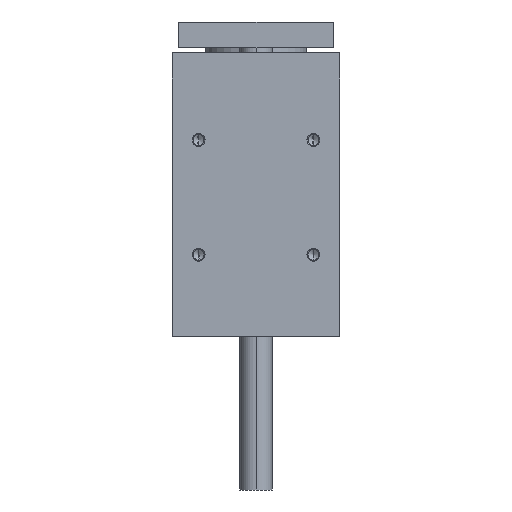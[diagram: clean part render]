
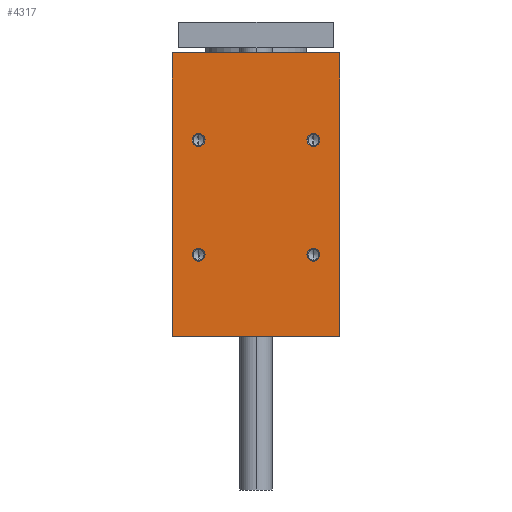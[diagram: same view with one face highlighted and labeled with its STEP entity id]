
A CAD part, left-side view. The second image highlights one B-rep face of the part: STEP entity #4317.
In plain terms, the highlighted planar face has unit normal (-1, 0, 0).
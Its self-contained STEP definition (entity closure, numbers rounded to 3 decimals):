
#60 = DIRECTION ( 'NONE',  ( 1., 0., 0. ) ) ;
#141 = CARTESIAN_POINT ( 'NONE',  ( -106.5, 44.5, 19.5 ) ) ;
#167 = FACE_OUTER_BOUND ( 'NONE', #5494, .T. ) ;
#168 = VERTEX_POINT ( 'NONE', #4506 ) ;
#173 = EDGE_CURVE ( 'NONE', #866, #2658, #3037, .T. ) ;
#185 = CARTESIAN_POINT ( 'NONE',  ( -106.5, -44.5, -64.5 ) ) ;
#186 = CARTESIAN_POINT ( 'NONE',  ( -106.5, 65., -128. ) ) ;
#221 = ORIENTED_EDGE ( 'NONE', *, *, #9203, .T. ) ;
#266 = DIRECTION ( 'NONE',  ( 0., 0., 1. ) ) ;
#301 = VERTEX_POINT ( 'NONE', #453 ) ;
#311 = ORIENTED_EDGE ( 'NONE', *, *, #8060, .T. ) ;
#336 = EDGE_LOOP ( 'NONE', ( #221, #1526 ) ) ;
#453 = CARTESIAN_POINT ( 'NONE',  ( -106.5, -44.5, -59.5 ) ) ;
#618 = VERTEX_POINT ( 'NONE', #1654 ) ;
#775 = VECTOR ( 'NONE', #4558, 1000. ) ;
#845 = EDGE_LOOP ( 'NONE', ( #3641, #8409 ) ) ;
#866 = VERTEX_POINT ( 'NONE', #141 ) ;
#897 = ORIENTED_EDGE ( 'NONE', *, *, #5985, .T. ) ;
#908 = CARTESIAN_POINT ( 'NONE',  ( -106.5, 44.5, 24.5 ) ) ;
#997 = CARTESIAN_POINT ( 'NONE',  ( -106.5, -65., -128. ) ) ;
#1097 = CARTESIAN_POINT ( 'NONE',  ( -106.5, 65., -128. ) ) ;
#1168 = CARTESIAN_POINT ( 'NONE',  ( -106.5, 44.5, -64.5 ) ) ;
#1226 = VECTOR ( 'NONE', #4097, 1000. ) ;
#1279 = ORIENTED_EDGE ( 'NONE', *, *, #1417, .T. ) ;
#1302 = EDGE_CURVE ( 'NONE', #8812, #9419, #4547, .T. ) ;
#1325 = VECTOR ( 'NONE', #4008, 1000. ) ;
#1417 = EDGE_CURVE ( 'NONE', #168, #9419, #1730, .T. ) ;
#1463 = FACE_BOUND ( 'NONE', #5907, .T. ) ;
#1526 = ORIENTED_EDGE ( 'NONE', *, *, #173, .T. ) ;
#1598 = VERTEX_POINT ( 'NONE', #4198 ) ;
#1654 = CARTESIAN_POINT ( 'NONE',  ( -106.5, 65., -128. ) ) ;
#1655 = VECTOR ( 'NONE', #266, 1000. ) ;
#1730 = LINE ( 'NONE', #997, #1655 ) ;
#1872 = CIRCLE ( 'NONE', #8861, 5. ) ;
#2242 = CARTESIAN_POINT ( 'NONE',  ( -106.5, -44.5, -69.5 ) ) ;
#2243 = DIRECTION ( 'NONE',  ( 1., 0., 0. ) ) ;
#2619 = DIRECTION ( 'NONE',  ( 0., 0., -1. ) ) ;
#2658 = VERTEX_POINT ( 'NONE', #5930 ) ;
#2710 = EDGE_CURVE ( 'NONE', #5092, #4435, #8848, .T. ) ;
#2888 = DIRECTION ( 'NONE',  ( 0., 0., -1. ) ) ;
#3037 = CIRCLE ( 'NONE', #8951, 5. ) ;
#3059 = DIRECTION ( 'NONE',  ( 1., 0., 0. ) ) ;
#3095 = ORIENTED_EDGE ( 'NONE', *, *, #7438, .F. ) ;
#3214 = CARTESIAN_POINT ( 'NONE',  ( -106.5, 44.5, -69.5 ) ) ;
#3227 = AXIS2_PLACEMENT_3D ( 'NONE', #3753, #60, #8238 ) ;
#3230 = CIRCLE ( 'NONE', #4002, 5. ) ;
#3305 = ORIENTED_EDGE ( 'NONE', *, *, #6308, .T. ) ;
#3324 = CARTESIAN_POINT ( 'NONE',  ( -106.5, -44.5, 19.5 ) ) ;
#3381 = CIRCLE ( 'NONE', #8522, 5. ) ;
#3529 = AXIS2_PLACEMENT_3D ( 'NONE', #7186, #6454, #9428 ) ;
#3629 = CARTESIAN_POINT ( 'NONE',  ( -106.5, 44.5, 24.5 ) ) ;
#3641 = ORIENTED_EDGE ( 'NONE', *, *, #2710, .T. ) ;
#3699 = CARTESIAN_POINT ( 'NONE',  ( -106.5, 65., 92. ) ) ;
#3753 = CARTESIAN_POINT ( 'NONE',  ( -106.5, 65., -128. ) ) ;
#4002 = AXIS2_PLACEMENT_3D ( 'NONE', #8558, #8641, #2619 ) ;
#4008 = DIRECTION ( 'NONE',  ( 0., -1., 0. ) ) ;
#4097 = DIRECTION ( 'NONE',  ( 0., -1., 0. ) ) ;
#4132 = DIRECTION ( 'NONE',  ( 1., 0., 0. ) ) ;
#4175 = CIRCLE ( 'NONE', #6352, 5. ) ;
#4198 = CARTESIAN_POINT ( 'NONE',  ( -106.5, -44.5, 29.5 ) ) ;
#4313 = EDGE_CURVE ( 'NONE', #1598, #5175, #7878, .T. ) ;
#4317 = ADVANCED_FACE ( 'NONE', ( #167, #1463, #6099, #6621, #4537 ), #8182, .F. ) ;
#4435 = VERTEX_POINT ( 'NONE', #3214 ) ;
#4456 = DIRECTION ( 'NONE',  ( 0., 0., -1. ) ) ;
#4506 = CARTESIAN_POINT ( 'NONE',  ( -106.5, -65., -128. ) ) ;
#4533 = ORIENTED_EDGE ( 'NONE', *, *, #8150, .T. ) ;
#4537 = FACE_BOUND ( 'NONE', #336, .T. ) ;
#4547 = LINE ( 'NONE', #7511, #1325 ) ;
#4558 = DIRECTION ( 'NONE',  ( 0., 0., 1. ) ) ;
#4698 = DIRECTION ( 'NONE',  ( 1., 0., 0. ) ) ;
#5092 = VERTEX_POINT ( 'NONE', #9082 ) ;
#5175 = VERTEX_POINT ( 'NONE', #3324 ) ;
#5374 = DIRECTION ( 'NONE',  ( 1., 0., 0. ) ) ;
#5494 = EDGE_LOOP ( 'NONE', ( #1279, #7246, #3095, #311 ) ) ;
#5713 = CIRCLE ( 'NONE', #3529, 5. ) ;
#5907 = EDGE_LOOP ( 'NONE', ( #4533, #897 ) ) ;
#5930 = CARTESIAN_POINT ( 'NONE',  ( -106.5, 44.5, 29.5 ) ) ;
#5934 = EDGE_CURVE ( 'NONE', #4435, #5092, #3230, .T. ) ;
#5985 = EDGE_CURVE ( 'NONE', #8864, #301, #5713, .T. ) ;
#6099 = FACE_BOUND ( 'NONE', #845, .T. ) ;
#6284 = ORIENTED_EDGE ( 'NONE', *, *, #4313, .T. ) ;
#6308 = EDGE_CURVE ( 'NONE', #5175, #1598, #3381, .T. ) ;
#6336 = AXIS2_PLACEMENT_3D ( 'NONE', #8912, #2243, #6832 ) ;
#6352 = AXIS2_PLACEMENT_3D ( 'NONE', #185, #5374, #4456 ) ;
#6454 = DIRECTION ( 'NONE',  ( 1., 0., 0. ) ) ;
#6593 = DIRECTION ( 'NONE',  ( 1., 0., 0. ) ) ;
#6621 = FACE_BOUND ( 'NONE', #9194, .T. ) ;
#6832 = DIRECTION ( 'NONE',  ( 0., 0., -1. ) ) ;
#6896 = CARTESIAN_POINT ( 'NONE',  ( -106.5, -44.5, 24.5 ) ) ;
#6939 = LINE ( 'NONE', #186, #775 ) ;
#7186 = CARTESIAN_POINT ( 'NONE',  ( -106.5, -44.5, -64.5 ) ) ;
#7246 = ORIENTED_EDGE ( 'NONE', *, *, #1302, .F. ) ;
#7438 = EDGE_CURVE ( 'NONE', #618, #8812, #6939, .T. ) ;
#7511 = CARTESIAN_POINT ( 'NONE',  ( -106.5, 65., 92. ) ) ;
#7669 = DIRECTION ( 'NONE',  ( 0., 0., -1. ) ) ;
#7760 = LINE ( 'NONE', #1097, #1226 ) ;
#7878 = CIRCLE ( 'NONE', #6336, 5. ) ;
#7921 = AXIS2_PLACEMENT_3D ( 'NONE', #1168, #4132, #8993 ) ;
#8060 = EDGE_CURVE ( 'NONE', #618, #168, #7760, .T. ) ;
#8150 = EDGE_CURVE ( 'NONE', #301, #8864, #4175, .T. ) ;
#8182 = PLANE ( 'NONE',  #3227 ) ;
#8238 = DIRECTION ( 'NONE',  ( 0., 1., 0. ) ) ;
#8409 = ORIENTED_EDGE ( 'NONE', *, *, #5934, .T. ) ;
#8522 = AXIS2_PLACEMENT_3D ( 'NONE', #6896, #4698, #7669 ) ;
#8558 = CARTESIAN_POINT ( 'NONE',  ( -106.5, 44.5, -64.5 ) ) ;
#8641 = DIRECTION ( 'NONE',  ( 1., 0., 0. ) ) ;
#8812 = VERTEX_POINT ( 'NONE', #3699 ) ;
#8848 = CIRCLE ( 'NONE', #7921, 5. ) ;
#8861 = AXIS2_PLACEMENT_3D ( 'NONE', #3629, #3059, #9536 ) ;
#8864 = VERTEX_POINT ( 'NONE', #2242 ) ;
#8912 = CARTESIAN_POINT ( 'NONE',  ( -106.5, -44.5, 24.5 ) ) ;
#8951 = AXIS2_PLACEMENT_3D ( 'NONE', #908, #6593, #2888 ) ;
#8993 = DIRECTION ( 'NONE',  ( 0., 0., -1. ) ) ;
#9082 = CARTESIAN_POINT ( 'NONE',  ( -106.5, 44.5, -59.5 ) ) ;
#9194 = EDGE_LOOP ( 'NONE', ( #6284, #3305 ) ) ;
#9203 = EDGE_CURVE ( 'NONE', #2658, #866, #1872, .T. ) ;
#9296 = CARTESIAN_POINT ( 'NONE',  ( -106.5, -65., 92. ) ) ;
#9419 = VERTEX_POINT ( 'NONE', #9296 ) ;
#9428 = DIRECTION ( 'NONE',  ( 0., 0., -1. ) ) ;
#9536 = DIRECTION ( 'NONE',  ( 0., 0., -1. ) ) ;
